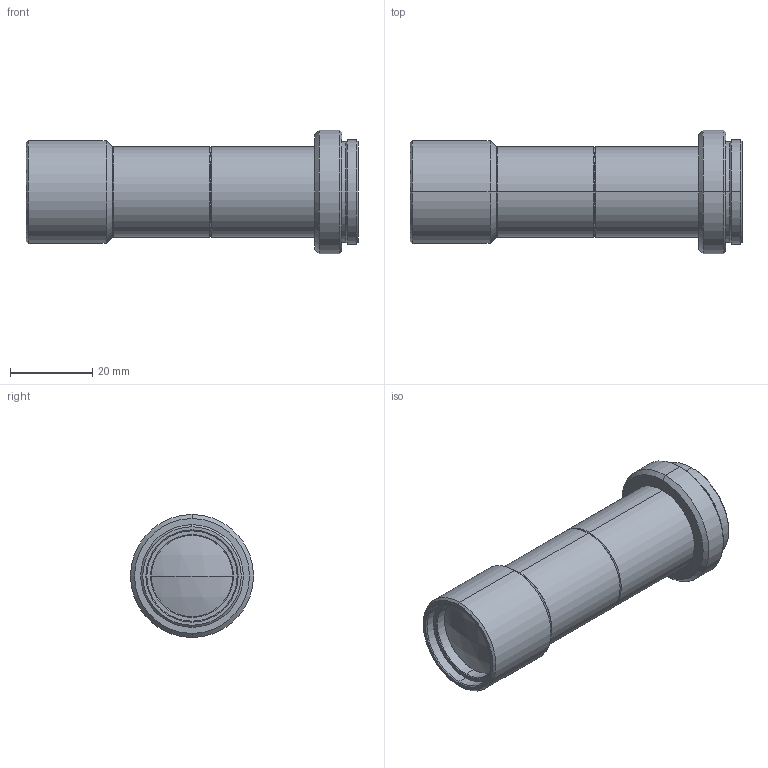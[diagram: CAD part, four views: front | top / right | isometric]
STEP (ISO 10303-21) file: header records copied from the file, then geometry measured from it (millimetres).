
FILE_DESCRIPTION (( 'STEP AP203' ), '1' );
FILE_NAME ('VS-TCH1-65.STEP', '2015-03-04T08:58:52', ( 'miura_vst' ), ( '' ), 'SwSTEP 2.0', 'SolidWorks 2015', '' );
FILE_SCHEMA (( 'CONFIG_CONTROL_DESIGN' ));
Length unit declared in the file: millimetre
Products named in the file (1): VS-TCH1-65
Bounding box: 80.9 x 30 x 30 mm (x, y, z)
Volume: 27167 mm3; surface area: 9638.5 mm2
Topology: 1 solids, 1 shells, 93 faces, 188 edges, 108 vertices
Faces by surface type: cone 48, cylinder 30, plane 11, sphere 4
Entity records: 2493 total; most frequent: DIRECTION 486, CARTESIAN_POINT 390, ORIENTED_EDGE 376, AXIS2_PLACEMENT_3D 204, EDGE_CURVE 188, CIRCLE 110, VERTEX_POINT 108, EDGE_LOOP 104
